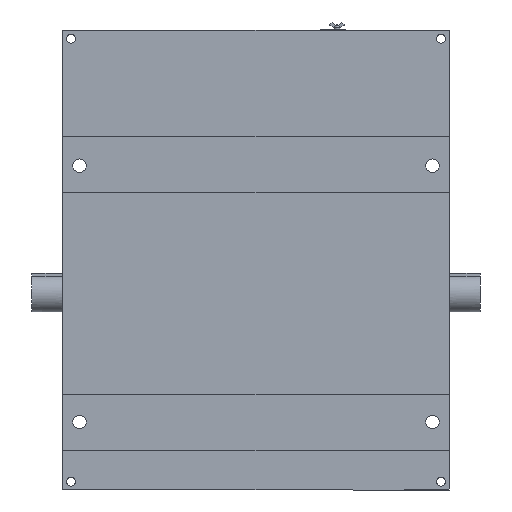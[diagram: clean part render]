
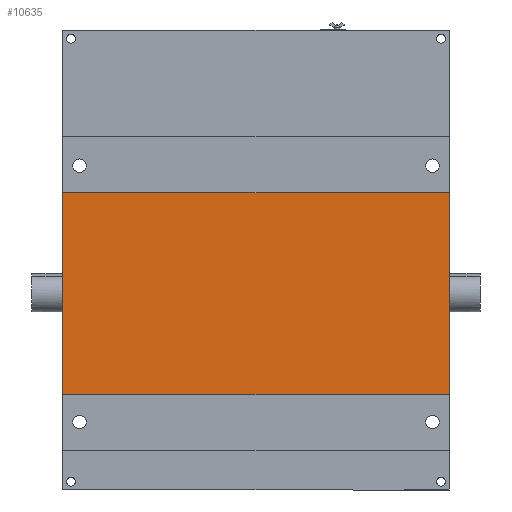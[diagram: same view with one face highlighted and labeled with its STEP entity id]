
A CAD part, front view. The second image highlights one B-rep face of the part: STEP entity #10635.
In plain terms, the highlighted planar face has unit normal (0, -1, 0).
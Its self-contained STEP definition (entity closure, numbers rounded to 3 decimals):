
#3984 = CARTESIAN_POINT ( 'NONE',  ( 745., -332.5, 180. ) ) ;
#4454 = CARTESIAN_POINT ( 'NONE',  ( 745., -332.5, 180. ) ) ;
#5195 = CARTESIAN_POINT ( 'NONE',  ( 55., -332.5, 180. ) ) ;
#6313 = LINE ( 'NONE', #18478, #29880 ) ;
#6806 = LINE ( 'NONE', #3984, #9375 ) ;
#7649 = DIRECTION ( 'NONE',  ( 0., 1., 0. ) ) ;
#9375 = VECTOR ( 'NONE', #29966, 1000. ) ;
#10101 = CARTESIAN_POINT ( 'NONE',  ( 745., -332.5, -180. ) ) ;
#10143 = CARTESIAN_POINT ( 'NONE',  ( 745., -332.5, 470. ) ) ;
#10315 = PLANE ( 'NONE',  #10319 ) ;
#10319 = AXIS2_PLACEMENT_3D ( 'NONE', #10143, #7649, #20301 ) ;
#10635 = ADVANCED_FACE ( 'NONE', ( #32973 ), #10315, .F. ) ;
#11212 = ORIENTED_EDGE ( 'NONE', *, *, #11433, .F. ) ;
#11433 = EDGE_CURVE ( 'NONE', #16832, #28027, #25504, .T. ) ;
#12477 = CARTESIAN_POINT ( 'NONE',  ( 745., -332.5, 470. ) ) ;
#13568 = EDGE_LOOP ( 'NONE', ( #29067, #29659, #29034, #11212 ) ) ;
#15019 = CARTESIAN_POINT ( 'NONE',  ( 55., -332.5, -180. ) ) ;
#15946 = VECTOR ( 'NONE', #33024, 1000. ) ;
#15999 = VERTEX_POINT ( 'NONE', #10101 ) ;
#16832 = VERTEX_POINT ( 'NONE', #15019 ) ;
#18478 = CARTESIAN_POINT ( 'NONE',  ( 745., -332.5, -180. ) ) ;
#19946 = VERTEX_POINT ( 'NONE', #4454 ) ;
#20301 = DIRECTION ( 'NONE',  ( 1., 0., 0. ) ) ;
#20459 = DIRECTION ( 'NONE',  ( 0., 0., -1. ) ) ;
#21317 = DIRECTION ( 'NONE',  ( -1., 0., 0. ) ) ;
#21964 = VECTOR ( 'NONE', #20459, 1000. ) ;
#22658 = EDGE_CURVE ( 'NONE', #19946, #15999, #32965, .T. ) ;
#22842 = CARTESIAN_POINT ( 'NONE',  ( 55., -332.5, 470. ) ) ;
#24719 = EDGE_CURVE ( 'NONE', #15999, #16832, #6313, .T. ) ;
#25504 = LINE ( 'NONE', #22842, #15946 ) ;
#28027 = VERTEX_POINT ( 'NONE', #5195 ) ;
#29034 = ORIENTED_EDGE ( 'NONE', *, *, #32340, .F. ) ;
#29067 = ORIENTED_EDGE ( 'NONE', *, *, #24719, .F. ) ;
#29659 = ORIENTED_EDGE ( 'NONE', *, *, #22658, .F. ) ;
#29880 = VECTOR ( 'NONE', #21317, 1000. ) ;
#29966 = DIRECTION ( 'NONE',  ( 1., 0., 0. ) ) ;
#32340 = EDGE_CURVE ( 'NONE', #28027, #19946, #6806, .T. ) ;
#32965 = LINE ( 'NONE', #12477, #21964 ) ;
#32973 = FACE_OUTER_BOUND ( 'NONE', #13568, .T. ) ;
#33024 = DIRECTION ( 'NONE',  ( 0., 0., 1. ) ) ;
